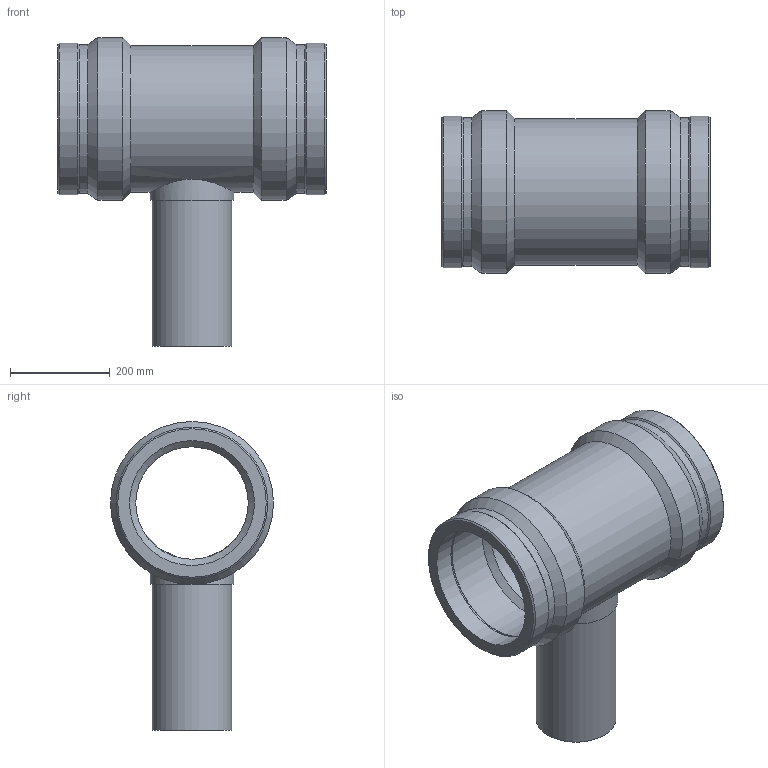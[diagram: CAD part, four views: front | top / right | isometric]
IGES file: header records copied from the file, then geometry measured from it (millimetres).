
Global section: file name: 491404250160.ipt; native system: Autodesk Inventor 2019; preprocessor: unknown; author: KIM; date: 20200621.104922; units: millimetre
Bounding box: 538 x 326 x 618 mm (x, y, z)
Volume: 16982214.6 mm3; surface area: 1267855.8 mm2
Topology: 1 solids, 1 shells, 45 faces, 101 edges, 66 vertices
Faces by surface type: plane 12, revolution 12, cylinder 11, cone 10
Full cylindrical faces by diameter (mm): 4 x2, 160 x1, 168 x1, 293.4 x1, 297.116 x2, 303.18 x2, 326 x2
